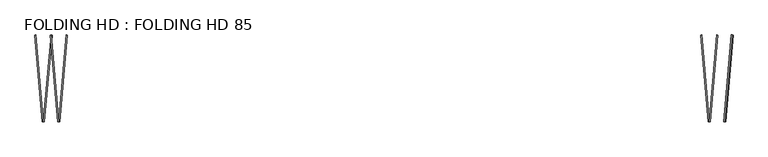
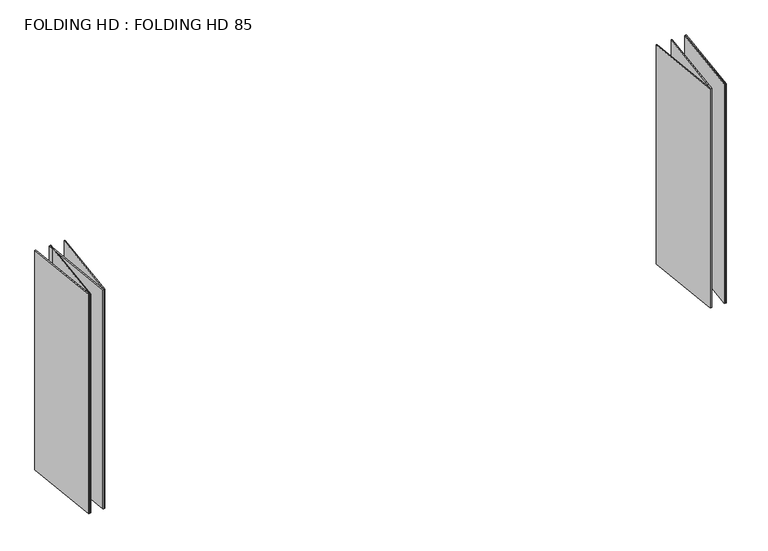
"""IFC4 building model written with IfcOpenShell, lengths in millimetres: plate geometry, FOLDING HD : FOLDING HD 85."""

from ifc_helpers import new_model, si_unit, origin, origin_with_axes, place, context, project, spatial, polyline, outline, extrude, source, transform, mapped, element, save


def folding_hd_folding_hd_85_8b524484(model_context):
    return source(origin(), model_context, "Body", "SweptSolid", [
        extrude(outline(polyline([(3521.5598315, -896.5752283), (3511.5978845, -895.7036709), (3590.0380525, 0.8715574), (3599.9999995, 0.0), (3521.5598315, -896.5752283)])), origin_with_axes(), (0.0, 0.0, 1.0), 2570.0),
        extrude(outline(polyline([(3521.5598315, -896.5752283), (3600.0, 0.0), (3609.961947, -0.8715574), (3531.5217785, -897.4467857), (3521.5598315, -896.5752283)])), origin_with_axes(), (0.0, 0.0, 1.0), 2570.0),
        extrude(outline(polyline([(3364.6794946, -896.5752283), (3443.1196631, 0.0), (3453.08161, -0.8715574), (3374.6414416, -897.4467857), (3364.6794946, -896.5752283)])), origin_with_axes(), (0.0, 0.0, 1.0), 2570.0),
        extrude(outline(polyline([(3364.6794946, -896.5752283), (3354.7175476, -897.4467857), (3276.2773791, -0.8715574), (3286.2393261, 0.0), (3364.6794946, -896.5752283)])), origin_with_axes(), (0.0, 0.0, 1.0), 2570.0),
        extrude(outline(polyline([(-3364.6794946, -896.5752283), (-3374.6414416, -897.4467857), (-3453.08161, -0.8715574), (-3443.1196631, 0.0), (-3364.6794946, -896.5752283)])), origin_with_axes(), (0.0, 0.0, 1.0), 2570.0),
        extrude(outline(polyline([(-3364.6794946, -896.5752283), (-3286.2393261, 0.0), (-3276.2773791, -0.8715574), (-3354.7175476, -897.4467857), (-3364.6794946, -896.5752283)])), origin_with_axes(), (0.0, 0.0, 1.0), 2570.0),
        extrude(outline(polyline([(-3521.5598315, -896.5752283), (-3443.1196631, 0.0), (-3433.1577161, -0.8715574), (-3511.5978845, -897.4467857), (-3521.5598315, -896.5752283)])), origin_with_axes(), (0.0, 0.0, 1.0), 2570.0),
        extrude(outline(polyline([(-3521.5598315, -896.5752283), (-3531.5217785, -897.4467857), (-3609.961947, -0.8715574), (-3600.0, 0.0), (-3521.5598315, -896.5752283)])), origin_with_axes(), (0.0, 0.0, 1.0), 2570.0),
    ])


if __name__ == "__main__":
    model = new_model("IFC4")
    model_context = context("Model", 3, world=origin())
    ifc_project = project(units=[si_unit("LENGTHUNIT", "METRE", prefix="MILLI")], contexts=[model_context])
    site = spatial("IfcSite", under=ifc_project)
    building = spatial("IfcBuilding", under=site)
    placement = place(None, origin())
    folding_hd_folding_hd_85_shape = folding_hd_folding_hd_85_8b524484(model_context)
    element("IfcPlate", 1, ObjectType="FOLDING HD : FOLDING HD 85", at=placement, inside=building, context=model_context, shape_type="MappedRepresentation", body=[
        mapped(folding_hd_folding_hd_85_shape, transform((0.0, 0.0, 0.0), x_axis=(1.0, 0.0, 0.0), y_axis=(0.0, 1.0, 0.0), z_axis=(0.0, 0.0, 1.0))),
    ])
    save(model, "model.ifc")
